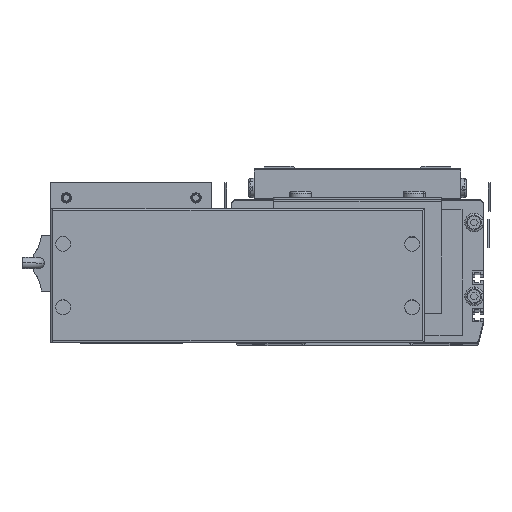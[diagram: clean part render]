
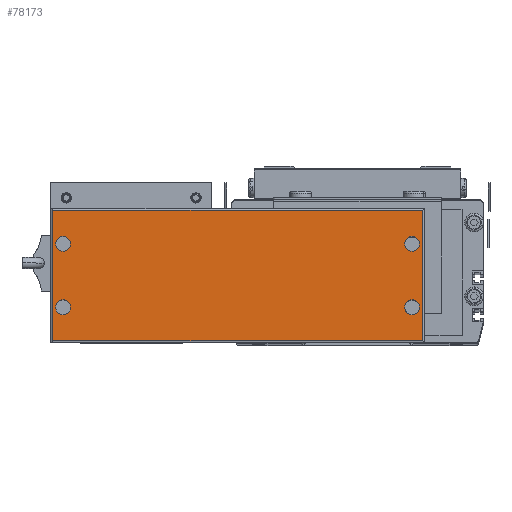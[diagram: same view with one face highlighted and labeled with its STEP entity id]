
A CAD part, top view. The second image highlights one B-rep face of the part: STEP entity #78173.
In plain terms, the highlighted planar face has unit normal (0, 0, 1).
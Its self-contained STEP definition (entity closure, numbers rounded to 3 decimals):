
#31936 = DIRECTION ( 'NONE',  ( 1., 0., 0. ) ) ;
#31938 = DIRECTION ( 'NONE',  ( 0., 0., 1. ) ) ;
#31940 = CARTESIAN_POINT ( 'NONE',  ( 29.25, 19., 44. ) ) ;
#32238 = CARTESIAN_POINT ( 'NONE',  ( 33.25, 19., 44. ) ) ;
#32240 = CARTESIAN_POINT ( 'NONE',  ( 25.25, 53., 44. ) ) ;
#32288 = CARTESIAN_POINT ( 'NONE',  ( -153.75, 53., 44. ) ) ;
#32336 = CIRCLE ( 'NONE', #32350, 4. ) ;
#32350 = AXIS2_PLACEMENT_3D ( 'NONE', #31940, #31938, #31936 ) ;
#32443 = DIRECTION ( 'NONE',  ( 1., 0., 0. ) ) ;
#32444 = DIRECTION ( 'NONE',  ( 0., 0., 1. ) ) ;
#32446 = CARTESIAN_POINT ( 'NONE',  ( -157.75, 53., 44. ) ) ;
#32448 = AXIS2_PLACEMENT_3D ( 'NONE', #32446, #32444, #32443 ) ;
#32458 = DIRECTION ( 'NONE',  ( 1., 0., 0. ) ) ;
#32459 = DIRECTION ( 'NONE',  ( 0., 0., 1. ) ) ;
#32463 = CIRCLE ( 'NONE', #32448, 4. ) ;
#32470 = CIRCLE ( 'NONE', #32478, 4. ) ;
#32474 = CARTESIAN_POINT ( 'NONE',  ( -157.75, 19., 44. ) ) ;
#32478 = AXIS2_PLACEMENT_3D ( 'NONE', #32474, #32459, #32458 ) ;
#32532 = CARTESIAN_POINT ( 'NONE',  ( 25.25, 19., 44. ) ) ;
#32570 = CARTESIAN_POINT ( 'NONE',  ( 29.25, 53., 44. ) ) ;
#32583 = DIRECTION ( 'NONE',  ( 0., 0., 1. ) ) ;
#32595 = CIRCLE ( 'NONE', #32598, 4. ) ;
#32596 = CARTESIAN_POINT ( 'NONE',  ( -161.75, 53., 44. ) ) ;
#32598 = AXIS2_PLACEMENT_3D ( 'NONE', #32570, #32583, #32648 ) ;
#32617 = CARTESIAN_POINT ( 'NONE',  ( 33.25, 53., 44. ) ) ;
#32648 = DIRECTION ( 'NONE',  ( 1., 0., 0. ) ) ;
#32829 = CARTESIAN_POINT ( 'NONE',  ( -153.75, 19., 44. ) ) ;
#32946 = CARTESIAN_POINT ( 'NONE',  ( -161.75, 19., 44. ) ) ;
#38133 = PLANE ( 'NONE',  #38152 ) ;
#38148 = DIRECTION ( 'NONE',  ( 0., 0., 1. ) ) ;
#38149 = CARTESIAN_POINT ( 'NONE',  ( -164.25, 0., 44. ) ) ;
#38152 = AXIS2_PLACEMENT_3D ( 'NONE', #38149, #38148, #38450 ) ;
#38156 = CARTESIAN_POINT ( 'NONE',  ( -157.75, 53., 44. ) ) ;
#38330 = DIRECTION ( 'NONE',  ( 1., 0., 0. ) ) ;
#38331 = DIRECTION ( 'NONE',  ( 0., 0., 1. ) ) ;
#38333 = CARTESIAN_POINT ( 'NONE',  ( -157.75, 19., 44. ) ) ;
#38334 = AXIS2_PLACEMENT_3D ( 'NONE', #38333, #38331, #38330 ) ;
#38387 = FACE_BOUND ( 'NONE', #78205, .T. ) ;
#38450 = DIRECTION ( 'NONE',  ( 1., 0., 0. ) ) ;
#38464 = CIRCLE ( 'NONE', #38334, 4. ) ;
#38469 = FACE_BOUND ( 'NONE', #78337, .T. ) ;
#38471 = DIRECTION ( 'NONE',  ( 1., 0., 0. ) ) ;
#38474 = DIRECTION ( 'NONE',  ( 0., 0., 1. ) ) ;
#38475 = AXIS2_PLACEMENT_3D ( 'NONE', #38156, #38474, #38471 ) ;
#38476 = FACE_BOUND ( 'NONE', #78597, .T. ) ;
#38480 = FACE_OUTER_BOUND ( 'NONE', #78492, .T. ) ;
#38521 = CIRCLE ( 'NONE', #38475, 4. ) ;
#38526 = FACE_BOUND ( 'NONE', #78203, .T. ) ;
#38699 = DIRECTION ( 'NONE',  ( 1., 0., 0. ) ) ;
#38700 = VECTOR ( 'NONE', #38699, 1000. ) ;
#38701 = CARTESIAN_POINT ( 'NONE',  ( 35.75, 1., 44. ) ) ;
#38703 = LINE ( 'NONE', #38701, #38700 ) ;
#38740 = LINE ( 'NONE', #38744, #38743 ) ;
#38742 = DIRECTION ( 'NONE',  ( 0., 1., 0. ) ) ;
#38743 = VECTOR ( 'NONE', #38742, 1000. ) ;
#38744 = CARTESIAN_POINT ( 'NONE',  ( 34.75, 72., 44. ) ) ;
#38885 = CARTESIAN_POINT ( 'NONE',  ( 34.75, 1., 44. ) ) ;
#38889 = CARTESIAN_POINT ( 'NONE',  ( 34.75, 71., 44. ) ) ;
#38929 = CARTESIAN_POINT ( 'NONE',  ( 29.25, 19., 44. ) ) ;
#38930 = AXIS2_PLACEMENT_3D ( 'NONE', #38929, #39215, #39214 ) ;
#39087 = LINE ( 'NONE', #39098, #39213 ) ;
#39098 = CARTESIAN_POINT ( 'NONE',  ( -163.25, 0., 44. ) ) ;
#39212 = DIRECTION ( 'NONE',  ( 0., -1., 0. ) ) ;
#39213 = VECTOR ( 'NONE', #39212, 1000. ) ;
#39214 = DIRECTION ( 'NONE',  ( 1., 0., 0. ) ) ;
#39215 = DIRECTION ( 'NONE',  ( 0., 0., 1. ) ) ;
#39221 = CIRCLE ( 'NONE', #38930, 4. ) ;
#39259 = CARTESIAN_POINT ( 'NONE',  ( -163.25, 71., 44. ) ) ;
#39271 = AXIS2_PLACEMENT_3D ( 'NONE', #39528, #39504, #39450 ) ;
#39422 = CIRCLE ( 'NONE', #39271, 4. ) ;
#39437 = CARTESIAN_POINT ( 'NONE',  ( -164.25, 71., 44. ) ) ;
#39438 = LINE ( 'NONE', #39437, #39486 ) ;
#39450 = DIRECTION ( 'NONE',  ( 1., 0., 0. ) ) ;
#39484 = DIRECTION ( 'NONE',  ( -1., 0., 0. ) ) ;
#39486 = VECTOR ( 'NONE', #39484, 1000. ) ;
#39504 = DIRECTION ( 'NONE',  ( 0., 0., 1. ) ) ;
#39528 = CARTESIAN_POINT ( 'NONE',  ( 29.25, 53., 44. ) ) ;
#39717 = CARTESIAN_POINT ( 'NONE',  ( -163.25, 1., 44. ) ) ;
#76800 = EDGE_CURVE ( 'NONE', #76942, #76943, #32470, .T. ) ;
#76804 = VERTEX_POINT ( 'NONE', #32288 ) ;
#76805 = EDGE_CURVE ( 'NONE', #76978, #76804, #32463, .T. ) ;
#76841 = VERTEX_POINT ( 'NONE', #32240 ) ;
#76843 = VERTEX_POINT ( 'NONE', #32238 ) ;
#76848 = EDGE_CURVE ( 'NONE', #76921, #76843, #32336, .T. ) ;
#76921 = VERTEX_POINT ( 'NONE', #32532 ) ;
#76942 = VERTEX_POINT ( 'NONE', #32946 ) ;
#76943 = VERTEX_POINT ( 'NONE', #32829 ) ;
#76978 = VERTEX_POINT ( 'NONE', #32596 ) ;
#76983 = EDGE_CURVE ( 'NONE', #76841, #76985, #32595, .T. ) ;
#76985 = VERTEX_POINT ( 'NONE', #32617 ) ;
#78170 = ORIENTED_EDGE ( 'NONE', *, *, #78172, .F. ) ;
#78172 = EDGE_CURVE ( 'NONE', #76804, #76978, #38521, .T. ) ;
#78173 = ADVANCED_FACE ( 'NONE', ( #38469, #38387, #38526, #38476, #38480 ), #38133, .T. ) ;
#78174 = EDGE_CURVE ( 'NONE', #76943, #76942, #38464, .T. ) ;
#78203 = EDGE_LOOP ( 'NONE', ( #78204, #78227 ) ) ;
#78204 = ORIENTED_EDGE ( 'NONE', *, *, #78682, .F. ) ;
#78205 = EDGE_LOOP ( 'NONE', ( #78372, #78541 ) ) ;
#78206 = ORIENTED_EDGE ( 'NONE', *, *, #78240, .T. ) ;
#78227 = ORIENTED_EDGE ( 'NONE', *, *, #76848, .F. ) ;
#78236 = ORIENTED_EDGE ( 'NONE', *, *, #76805, .F. ) ;
#78240 = EDGE_CURVE ( 'NONE', #78266, #78260, #38740, .T. ) ;
#78241 = EDGE_CURVE ( 'NONE', #78542, #78266, #38703, .T. ) ;
#78260 = VERTEX_POINT ( 'NONE', #38889 ) ;
#78266 = VERTEX_POINT ( 'NONE', #38885 ) ;
#78337 = EDGE_LOOP ( 'NONE', ( #78170, #78236 ) ) ;
#78357 = ORIENTED_EDGE ( 'NONE', *, *, #78359, .T. ) ;
#78359 = EDGE_CURVE ( 'NONE', #78462, #78542, #39087, .T. ) ;
#78368 = ORIENTED_EDGE ( 'NONE', *, *, #78391, .F. ) ;
#78372 = ORIENTED_EDGE ( 'NONE', *, *, #78174, .F. ) ;
#78391 = EDGE_CURVE ( 'NONE', #76985, #76841, #39422, .T. ) ;
#78453 = EDGE_CURVE ( 'NONE', #78260, #78462, #39438, .T. ) ;
#78456 = ORIENTED_EDGE ( 'NONE', *, *, #78453, .T. ) ;
#78462 = VERTEX_POINT ( 'NONE', #39259 ) ;
#78469 = ORIENTED_EDGE ( 'NONE', *, *, #78241, .T. ) ;
#78492 = EDGE_LOOP ( 'NONE', ( #78469, #78206, #78456, #78357 ) ) ;
#78541 = ORIENTED_EDGE ( 'NONE', *, *, #76800, .F. ) ;
#78542 = VERTEX_POINT ( 'NONE', #39717 ) ;
#78543 = ORIENTED_EDGE ( 'NONE', *, *, #76983, .F. ) ;
#78597 = EDGE_LOOP ( 'NONE', ( #78368, #78543 ) ) ;
#78682 = EDGE_CURVE ( 'NONE', #76843, #76921, #39221, .T. ) ;
